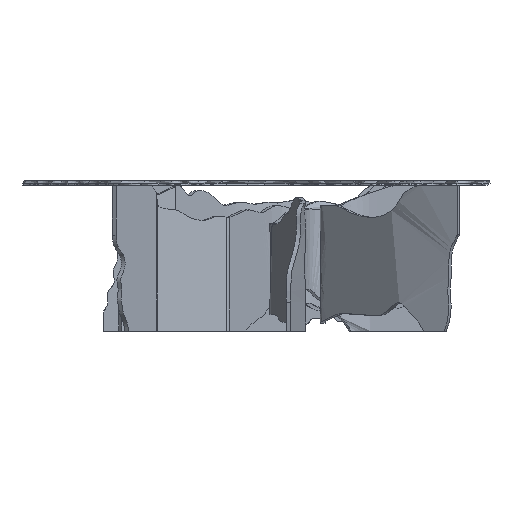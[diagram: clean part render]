
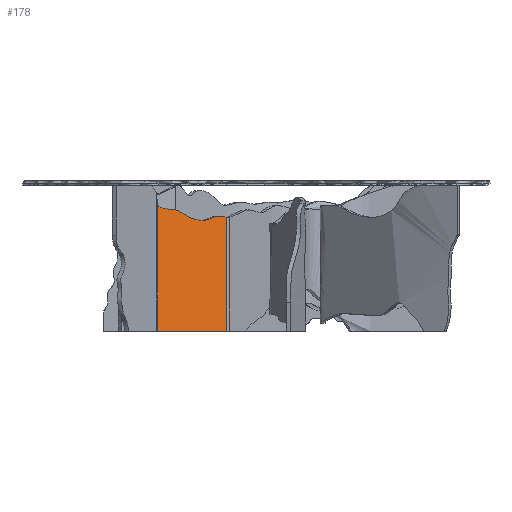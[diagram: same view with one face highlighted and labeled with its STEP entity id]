
A CAD part, left-side view. The second image highlights one B-rep face of the part: STEP entity #178.
In plain terms, the highlighted planar face has unit normal (-0.866, -0.5, 0).
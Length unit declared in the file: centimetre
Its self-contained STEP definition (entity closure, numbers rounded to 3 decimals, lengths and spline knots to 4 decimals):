
#178=ADVANCED_FACE($,(#589),#4721,.T.);
#589=FACE_OUTER_BOUND($,#1000,.T.);
#1000=EDGE_LOOP($,(#1640,#1641,#1642,#1643));
#1640=ORIENTED_EDGE($,*,*,#3339,.T.);
#1641=ORIENTED_EDGE($,*,*,#3353,.T.);
#1642=ORIENTED_EDGE($,*,*,#3351,.T.);
#1643=ORIENTED_EDGE($,*,*,#3352,.T.);
#3339=EDGE_CURVE($,#4219,#4220,#5134,.T.);
#3351=EDGE_CURVE($,#4227,#4228,#5141,.T.);
#3352=EDGE_CURVE($,#4228,#4219,#5142,.T.);
#3353=EDGE_CURVE($,#4220,#4227,#5143,.T.);
#4219=VERTEX_POINT($,#8791);
#4220=VERTEX_POINT($,#8792);
#4227=VERTEX_POINT($,#8799);
#4228=VERTEX_POINT($,#8800);
#4721=PLANE($,#6102);
#5134=B_SPLINE_CURVE_WITH_KNOTS($,3,(#7760,#7761,#7762,#7763),.UNSPECIFIED.,
.F.,.F.,(4,4),(0.,29.7448),.UNSPECIFIED.);
#5141=B_SPLINE_CURVE_WITH_KNOTS($,3,(#7799,#7800,#7801,#7802),.UNSPECIFIED.,
.F.,.F.,(4,4),(4.9897,38.),.UNSPECIFIED.);
#5142=B_SPLINE_CURVE_WITH_KNOTS($,3,(#7803,#7804,#7805,#7806),.UNSPECIFIED.,
.F.,.F.,(4,4),(143.14,163.7385),.UNSPECIFIED.);
#5143=B_SPLINE_CURVE_WITH_KNOTS($,3,(#7807,#7808,#7809,#7810,#7811,#7812,
#7813,#7814,#7815,#7816,#7817,#7818,#7819,#7820,#7821,#7822,#7823,#7824,
#7825,#7826,#7827,#7828,#7829,#7830,#7831,#7832,#7833,#7834,#7835,#7836,
#7837,#7838,#7839,#7840,#7841,#7842,#7843,#7844,#7845,#7846,#7847,#7848,
#7849,#7850,#7851,#7852,#7853,#7854,#7855,#7856,#7857,#7858,#7859,#7860,
#7861,#7862,#7863,#7864),.UNSPECIFIED.,.F.,.F.,(4,3,3,3,3,3,3,3,3,3,3,3,
3,3,3,3,3,3,3,4),(85.7598,85.8269,87.6011,88.4856,
89.4441,91.1424,92.1759,93.4307,94.9082,
97.2714,98.2314,100.0778,101.1106,101.9932,
102.4373,103.8437,104.6526,106.139,107.3062,
107.4116),.UNSPECIFIED.);
#6102=AXIS2_PLACEMENT_3D($,#8301,#6183,$);
#6183=DIRECTION($,(-0.866,-0.5,0.));
#7760=CARTESIAN_POINT($,(77.8121,68.8205,0.));
#7761=CARTESIAN_POINT($,(77.8121,68.8205,9.9149));
#7762=CARTESIAN_POINT($,(77.8121,68.8205,19.8299));
#7763=CARTESIAN_POINT($,(77.8121,68.8205,29.7448));
#7799=CARTESIAN_POINT($,(67.5129,86.6593,33.0103));
#7800=CARTESIAN_POINT($,(67.5129,86.6593,22.0069));
#7801=CARTESIAN_POINT($,(67.5129,86.6593,11.0034));
#7802=CARTESIAN_POINT($,(67.5129,86.6593,0.));
#7803=CARTESIAN_POINT($,(67.5129,86.6593,0.));
#7804=CARTESIAN_POINT($,(70.9459,80.713,0.));
#7805=CARTESIAN_POINT($,(74.379,74.7668,0.));
#7806=CARTESIAN_POINT($,(77.8121,68.8205,0.));
#7807=CARTESIAN_POINT($,(77.8121,68.8205,29.7448));
#7808=CARTESIAN_POINT($,(77.801,68.8398,29.7467));
#7809=CARTESIAN_POINT($,(77.7898,68.8591,29.7487));
#7810=CARTESIAN_POINT($,(77.7787,68.8783,29.7508));
#7811=CARTESIAN_POINT($,(77.4843,69.3883,29.8046));
#7812=CARTESIAN_POINT($,(77.1927,69.8934,29.9132));
#7813=CARTESIAN_POINT($,(76.8979,70.404,29.9567));
#7814=CARTESIAN_POINT($,(76.7509,70.6585,29.9784));
#7815=CARTESIAN_POINT($,(76.6032,70.9145,29.9839));
#7816=CARTESIAN_POINT($,(76.456,71.1693,29.9622));
#7817=CARTESIAN_POINT($,(76.2965,71.4455,29.9387));
#7818=CARTESIAN_POINT($,(76.1378,71.7205,29.8833));
#7819=CARTESIAN_POINT($,(75.985,71.9851,29.7922));
#7820=CARTESIAN_POINT($,(75.7143,72.4541,29.6306));
#7821=CARTESIAN_POINT($,(75.4622,72.8906,29.3569));
#7822=CARTESIAN_POINT($,(75.1944,73.3546,29.1751));
#7823=CARTESIAN_POINT($,(75.0314,73.6369,29.0644));
#7824=CARTESIAN_POINT($,(74.8625,73.9293,28.9878));
#7825=CARTESIAN_POINT($,(74.6919,74.2249,28.9406));
#7826=CARTESIAN_POINT($,(74.4847,74.5837,28.8832));
#7827=CARTESIAN_POINT($,(74.2749,74.9471,28.8692));
#7828=CARTESIAN_POINT($,(74.0661,75.3088,28.8893));
#7829=CARTESIAN_POINT($,(73.8202,75.7347,28.9129));
#7830=CARTESIAN_POINT($,(73.5757,76.1582,28.9838));
#7831=CARTESIAN_POINT($,(73.3343,76.5763,29.0826));
#7832=CARTESIAN_POINT($,(72.9482,77.245,29.2407));
#7833=CARTESIAN_POINT($,(72.57,77.9001,29.4704));
#7834=CARTESIAN_POINT($,(72.2074,78.5282,29.7784));
#7835=CARTESIAN_POINT($,(72.06,78.7833,29.9035));
#7836=CARTESIAN_POINT($,(71.9153,79.034,30.0416));
#7837=CARTESIAN_POINT($,(71.775,79.2771,30.1951));
#7838=CARTESIAN_POINT($,(71.505,79.7447,30.4904));
#7839=CARTESIAN_POINT($,(71.2512,80.1842,30.8431));
#7840=CARTESIAN_POINT($,(70.9772,80.6589,31.1232));
#7841=CARTESIAN_POINT($,(70.8239,80.9244,31.2799));
#7842=CARTESIAN_POINT($,(70.6643,81.2009,31.4139));
#7843=CARTESIAN_POINT($,(70.4991,81.4869,31.5103));
#7844=CARTESIAN_POINT($,(70.358,81.7313,31.5926));
#7845=CARTESIAN_POINT($,(70.2129,81.9827,31.6474));
#7846=CARTESIAN_POINT($,(70.0668,82.2358,31.6812));
#7847=CARTESIAN_POINT($,(69.9932,82.3632,31.6983));
#7848=CARTESIAN_POINT($,(69.9194,82.491,31.71));
#7849=CARTESIAN_POINT($,(69.8456,82.6189,31.7205));
#7850=CARTESIAN_POINT($,(69.6118,83.0239,31.7536));
#7851=CARTESIAN_POINT($,(69.3775,83.4297,31.7738));
#7852=CARTESIAN_POINT($,(69.1439,83.8343,31.8145));
#7853=CARTESIAN_POINT($,(69.0095,84.0671,31.838));
#7854=CARTESIAN_POINT($,(68.8753,84.2995,31.8682));
#7855=CARTESIAN_POINT($,(68.7421,84.5302,31.9086));
#7856=CARTESIAN_POINT($,(68.4973,84.9542,31.9829));
#7857=CARTESIAN_POINT($,(68.2557,85.3727,32.0916));
#7858=CARTESIAN_POINT($,(68.0256,85.7713,32.2839));
#7859=CARTESIAN_POINT($,(67.8449,86.0842,32.435));
#7860=CARTESIAN_POINT($,(67.6713,86.3849,32.6376));
#7861=CARTESIAN_POINT($,(67.5457,86.6024,32.9292));
#7862=CARTESIAN_POINT($,(67.5344,86.622,32.9555));
#7863=CARTESIAN_POINT($,(67.5234,86.641,32.9826));
#7864=CARTESIAN_POINT($,(67.5129,86.6593,33.0103));
#8301=CARTESIAN_POINT($,(77.8121,68.8205,33.0103));
#8791=CARTESIAN_POINT($,(77.8121,68.8205,0.));
#8792=CARTESIAN_POINT($,(77.8121,68.8205,29.7448));
#8799=CARTESIAN_POINT($,(67.5129,86.6593,33.0103));
#8800=CARTESIAN_POINT($,(67.5129,86.6593,0.));
